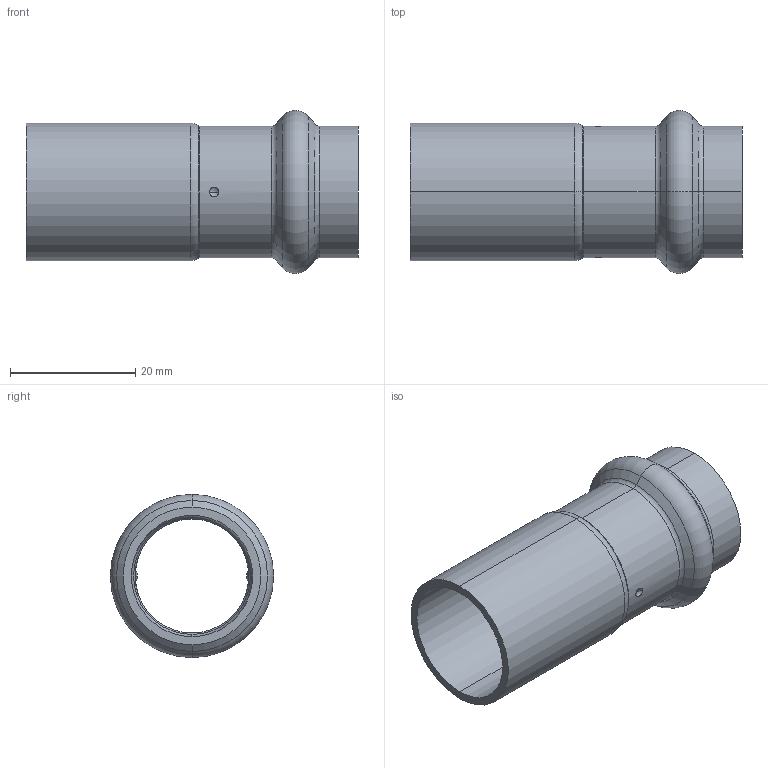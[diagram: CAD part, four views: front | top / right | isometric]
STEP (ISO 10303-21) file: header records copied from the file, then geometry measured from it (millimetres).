
FILE_DESCRIPTION (( 'STEP AP203' ), '1' );
FILE_NAME ('SP5243 22-18.STEP', '2017-04-24T09:04:55', ( '' ), ( '' ), 'SwSTEP 2.0', 'SolidWorks 2016', '' );
FILE_SCHEMA (( 'CONFIG_CONTROL_DESIGN' ));
Length unit declared in the file: millimetre
Products named in the file (1): SP5243 22-18
Bounding box: 53.1 x 26.1 x 26.1 mm (x, y, z)
Volume: 4844.6 mm3; surface area: 7319.6 mm2
Topology: 1 solids, 1 shells, 50 faces, 100 edges, 56 vertices
Faces by surface type: torus 16, cylinder 12, cone 12, sphere 8, plane 2
Entity records: 1481 total; most frequent: CARTESIAN_POINT 327, DIRECTION 262, ORIENTED_EDGE 200, AXIS2_PLACEMENT_3D 119, EDGE_CURVE 100, CIRCLE 68, EDGE_LOOP 56, VERTEX_POINT 56
